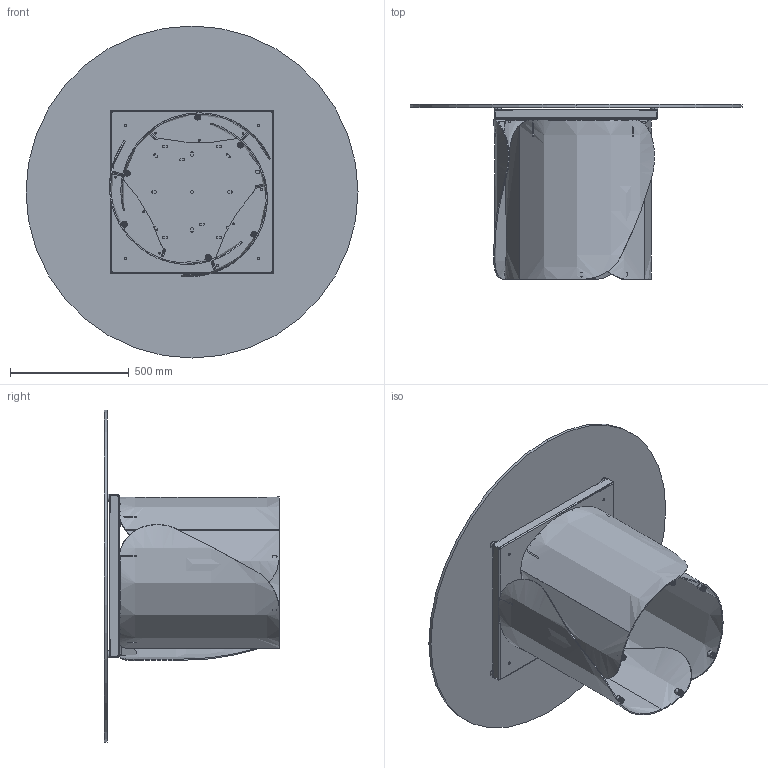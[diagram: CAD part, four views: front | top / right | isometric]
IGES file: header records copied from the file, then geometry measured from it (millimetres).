
Start section: SolidWorks IGES file using analytic representation for surfaces
Global section: file name: Y:\eforma\TECNICO\SOLIDWORKS\E-FORMA\1-TAVOLI\ONDA\02 parts\ON06G.IGS; native system: SolidWorks 2022; preprocessor: SolidWorks 2022; author: eforma.tech; date: 240806.152931; units: millimetre
Bounding box: 1400 x 738 x 1400 mm (x, y, z)
Volume: 29249177.5 mm3; surface area: 7771645.7 mm2
Topology: 62 solids, 62 shells, 1545 faces, 3651 edges, 2266 vertices
Faces by surface type: revolution 859, plane 626, bspline 60
